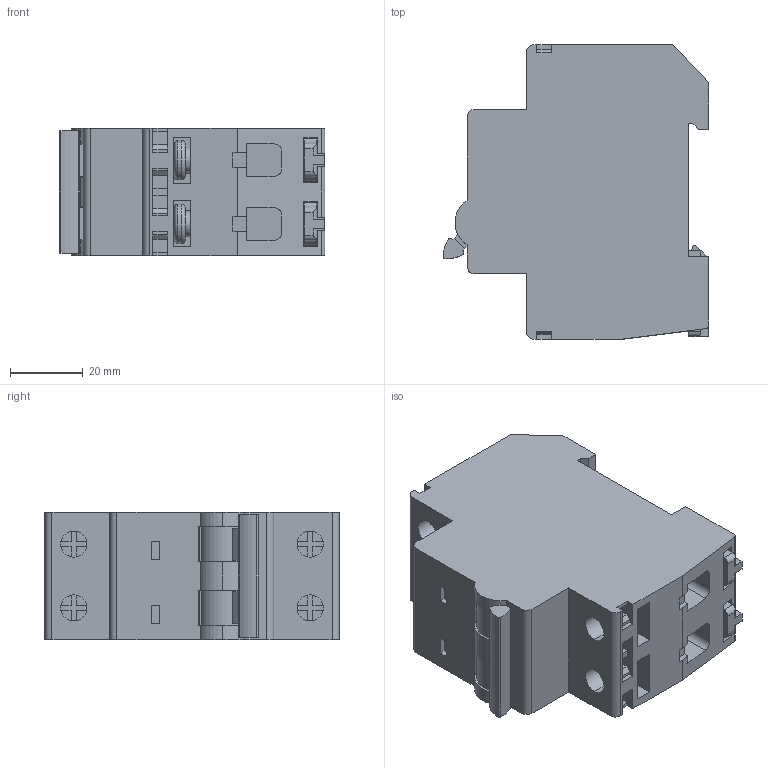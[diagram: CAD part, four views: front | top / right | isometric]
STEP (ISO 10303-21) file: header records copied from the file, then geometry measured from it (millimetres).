
FILE_DESCRIPTION (( 'STEP AP214' ), '1' );
FILE_NAME ('Installatieautomaat 2P.STEP', '2025-07-29T13:09:59', ( '' ), ( '' ), 'SwSTEP 2.0', 'SolidWorks 2025', '' );
FILE_SCHEMA (( 'AUTOMOTIVE_DESIGN' ));
Length unit declared in the file: millimetre
Products named in the file (3): CAD #3; Installatieautomaat 2P; Lipje algemeen
Assembly tree (3 placements, depth 2):
  Installatieautomaat 2P
    CAD #3
    Lipje algemeen  x2
Bounding box: 72.86 x 80.8 x 35 mm (x, y, z)
Volume: 147962.4 mm3; surface area: 29536.8 mm2
Topology: 3 solids, 3 shells, 469 faces, 1299 edges, 854 vertices
Faces by surface type: plane 358, cylinder 95, torus 16
Entity records: 13132 total; most frequent: CARTESIAN_POINT 2339, ORIENTED_EDGE 2276, DIRECTION 2148, EDGE_CURVE 1138, VECTOR 954, LINE 954, VERTEX_POINT 748, AXIS2_PLACEMENT_3D 597
